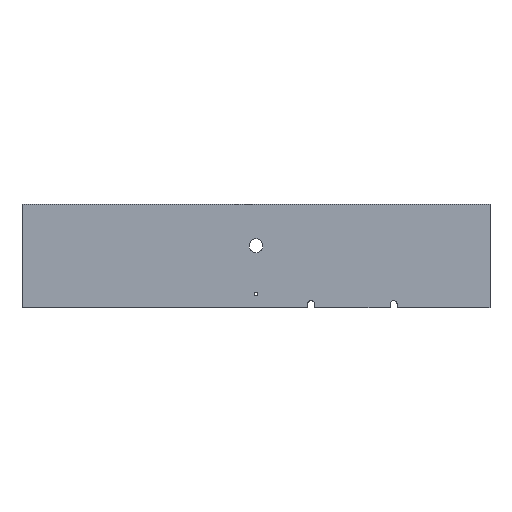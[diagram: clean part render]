
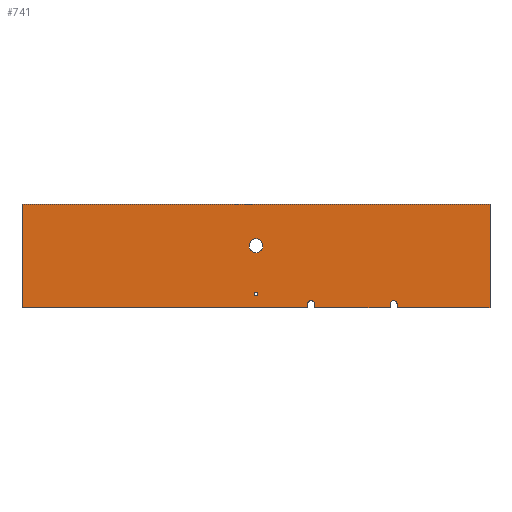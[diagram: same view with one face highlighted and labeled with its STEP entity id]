
A CAD part, top view. The second image highlights one B-rep face of the part: STEP entity #741.
In plain terms, the highlighted planar face has unit normal (0, 0, 1).
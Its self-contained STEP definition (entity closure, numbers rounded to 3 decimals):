
#36=CIRCLE('',#749,5.);
#54=CIRCLE('',#787,5.);
#57=CIRCLE('',#797,2.5);
#59=CIRCLE('',#800,10.);
#170=ORIENTED_EDGE('',*,*,#239,.F.);
#171=ORIENTED_EDGE('',*,*,#237,.T.);
#172=ORIENTED_EDGE('',*,*,#235,.T.);
#173=ORIENTED_EDGE('',*,*,#184,.T.);
#174=ORIENTED_EDGE('',*,*,#188,.F.);
#175=ORIENTED_EDGE('',*,*,#191,.T.);
#176=ORIENTED_EDGE('',*,*,#212,.T.);
#177=ORIENTED_EDGE('',*,*,#213,.T.);
#178=ORIENTED_EDGE('',*,*,#216,.T.);
#179=ORIENTED_EDGE('',*,*,#219,.T.);
#180=ORIENTED_EDGE('',*,*,#224,.T.);
#181=ORIENTED_EDGE('',*,*,#227,.T.);
#182=ORIENTED_EDGE('',*,*,#230,.T.);
#183=ORIENTED_EDGE('',*,*,#233,.T.);
#184=EDGE_CURVE('',#240,#241,#292,.T.);
#188=EDGE_CURVE('',#244,#241,#36,.F.);
#191=EDGE_CURVE('',#244,#246,#297,.T.);
#212=EDGE_CURVE('',#246,#273,#302,.T.);
#213=EDGE_CURVE('',#273,#274,#303,.T.);
#216=EDGE_CURVE('',#274,#276,#54,.T.);
#219=EDGE_CURVE('',#276,#278,#307,.T.);
#224=EDGE_CURVE('',#278,#281,#312,.T.);
#227=EDGE_CURVE('',#281,#283,#315,.T.);
#230=EDGE_CURVE('',#283,#285,#318,.T.);
#233=EDGE_CURVE('',#285,#287,#321,.T.);
#235=EDGE_CURVE('',#287,#240,#323,.T.);
#237=EDGE_CURVE('',#289,#289,#57,.T.);
#239=EDGE_CURVE('',#291,#291,#59,.F.);
#240=VERTEX_POINT('',#952);
#241=VERTEX_POINT('',#953);
#244=VERTEX_POINT('',#961);
#246=VERTEX_POINT('',#967);
#273=VERTEX_POINT('',#1031);
#274=VERTEX_POINT('',#1035);
#276=VERTEX_POINT('',#1041);
#278=VERTEX_POINT('',#1047);
#281=VERTEX_POINT('',#1055);
#283=VERTEX_POINT('',#1061);
#285=VERTEX_POINT('',#1067);
#287=VERTEX_POINT('',#1073);
#289=VERTEX_POINT('',#1082);
#291=VERTEX_POINT('',#1087);
#292=LINE('',#951,#324);
#297=LINE('',#966,#329);
#302=LINE('',#1032,#334);
#303=LINE('',#1034,#335);
#307=LINE('',#1046,#339);
#312=LINE('',#1056,#344);
#315=LINE('',#1062,#347);
#318=LINE('',#1068,#350);
#321=LINE('',#1074,#353);
#323=LINE('',#1077,#355);
#324=VECTOR('',#807,1000.);
#329=VECTOR('',#820,1000.);
#334=VECTOR('',#891,1000.);
#335=VECTOR('',#894,1000.);
#339=VECTOR('',#906,1000.);
#344=VECTOR('',#913,1000.);
#347=VECTOR('',#918,1000.);
#350=VECTOR('',#923,1000.);
#353=VECTOR('',#928,1000.);
#355=VECTOR('',#932,1000.);
#407=EDGE_LOOP('',(#170));
#408=EDGE_LOOP('',(#171));
#409=EDGE_LOOP('',(#172,#173,#174,#175,#176,#177,#178,#179,#180,#181,#182,
#183));
#469=FACE_BOUND('',#407,.T.);
#470=FACE_BOUND('',#408,.T.);
#471=FACE_BOUND('',#409,.T.);
#483=PLANE('',#802);
#741=ADVANCED_FACE('',(#469,#470,#471),#483,.F.);
#749=AXIS2_PLACEMENT_3D('',#960,#813,#814);
#787=AXIS2_PLACEMENT_3D('',#1040,#899,#900);
#797=AXIS2_PLACEMENT_3D('',#1081,#937,#938);
#800=AXIS2_PLACEMENT_3D('',#1086,#943,#944);
#802=AXIS2_PLACEMENT_3D('',#1089,#947,#948);
#807=DIRECTION('',(0.,1.,0.));
#813=DIRECTION('',(0.,0.,-1.));
#814=DIRECTION('',(-1.,0.,0.));
#820=DIRECTION('',(0.,-1.,0.));
#891=DIRECTION('',(1.,0.,0.));
#894=DIRECTION('',(0.,1.,0.));
#899=DIRECTION('',(0.,0.,-1.));
#900=DIRECTION('',(-1.,0.,0.));
#906=DIRECTION('',(0.,-1.,0.));
#913=DIRECTION('',(1.,0.,0.));
#918=DIRECTION('',(0.,1.,0.));
#923=DIRECTION('',(-1.,0.,0.));
#928=DIRECTION('',(0.,-1.,0.));
#932=DIRECTION('',(1.,0.,0.));
#937=DIRECTION('',(0.,0.,-1.));
#938=DIRECTION('',(-1.,0.,0.));
#943=DIRECTION('',(0.,0.,-1.));
#944=DIRECTION('',(-1.,0.,0.));
#947=DIRECTION('',(0.,0.,-1.));
#948=DIRECTION('',(-1.,0.,0.));
#951=CARTESIAN_POINT('',(75.,-70.,10.));
#952=CARTESIAN_POINT('',(75.,-75.,10.));
#953=CARTESIAN_POINT('',(75.,-70.,10.));
#960=CARTESIAN_POINT('',(80.,-70.,10.));
#961=CARTESIAN_POINT('',(85.,-70.,10.));
#966=CARTESIAN_POINT('',(85.,-70.,10.));
#967=CARTESIAN_POINT('',(85.,-75.,10.));
#1031=CARTESIAN_POINT('',(195.,-75.,10.));
#1032=CARTESIAN_POINT('',(-340.,-75.,10.));
#1034=CARTESIAN_POINT('',(195.,-70.,10.));
#1035=CARTESIAN_POINT('',(195.,-70.,10.));
#1040=CARTESIAN_POINT('',(200.,-70.,10.));
#1041=CARTESIAN_POINT('',(205.,-70.,10.));
#1046=CARTESIAN_POINT('',(205.,-70.,10.));
#1047=CARTESIAN_POINT('',(205.,-75.,10.));
#1055=CARTESIAN_POINT('',(340.,-75.,10.));
#1056=CARTESIAN_POINT('',(-340.,-75.,10.));
#1061=CARTESIAN_POINT('',(340.,75.,10.));
#1062=CARTESIAN_POINT('',(340.,-75.,10.));
#1067=CARTESIAN_POINT('',(-340.,75.,10.));
#1068=CARTESIAN_POINT('',(-340.,75.,10.));
#1073=CARTESIAN_POINT('',(-340.,-75.,10.));
#1074=CARTESIAN_POINT('',(-340.,-75.,10.));
#1077=CARTESIAN_POINT('',(-340.,-75.,10.));
#1081=CARTESIAN_POINT('',(0.,-55.,10.));
#1082=CARTESIAN_POINT('',(-2.5,-55.,10.));
#1086=CARTESIAN_POINT('',(0.,15.,10.));
#1087=CARTESIAN_POINT('',(-10.,15.,10.));
#1089=CARTESIAN_POINT('',(0.,0.,10.));
